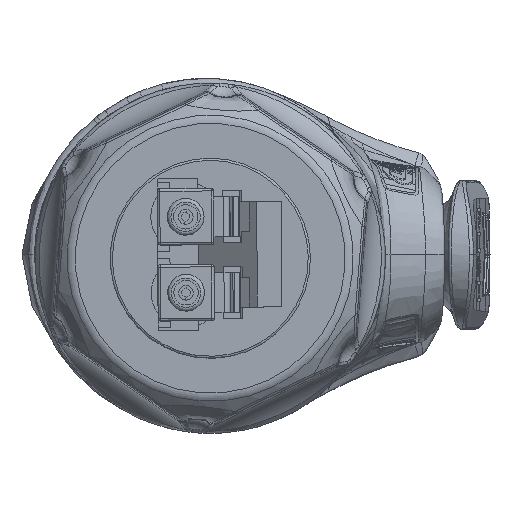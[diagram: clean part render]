
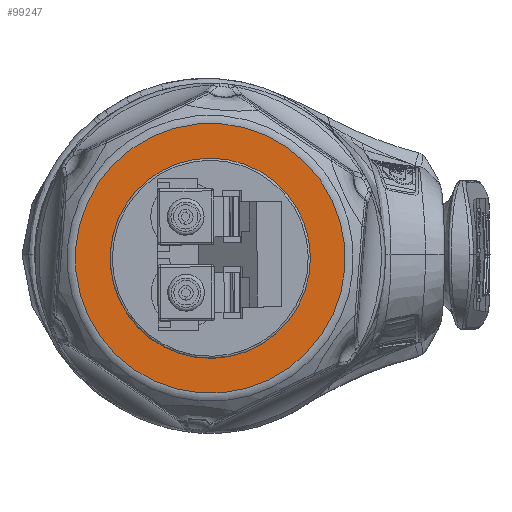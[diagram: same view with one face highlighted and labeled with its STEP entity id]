
A CAD part, left-side view. The second image highlights one B-rep face of the part: STEP entity #99247.
In plain terms, the highlighted planar face has unit normal (-1, 0, 0).
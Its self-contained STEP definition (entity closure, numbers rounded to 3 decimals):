
#964 = AXIS2_PLACEMENT_3D ( 'NONE', #31119, #85480, #58016 ) ;
#16656 = DIRECTION ( 'NONE',  ( -1., 0., 0. ) ) ;
#25167 = CIRCLE ( 'NONE', #964, 8.175 ) ;
#25982 = EDGE_CURVE ( 'NONE', #26931, #26931, #25167, .T. ) ;
#26931 = VERTEX_POINT ( 'NONE', #46173 ) ;
#27712 = DIRECTION ( 'NONE',  ( 0., 0.079, -0.997 ) ) ;
#30008 = AXIS2_PLACEMENT_3D ( 'NONE', #115609, #89270, #43113 ) ;
#30973 = EDGE_CURVE ( 'NONE', #82440, #82440, #46087, .T. ) ;
#31119 = CARTESIAN_POINT ( 'NONE',  ( -59.218, -0.343, -0.295 ) ) ;
#38584 = AXIS2_PLACEMENT_3D ( 'NONE', #61109, #16656, #27712 ) ;
#40768 = EDGE_LOOP ( 'NONE', ( #62882 ) ) ;
#43113 = DIRECTION ( 'NONE',  ( 0., 0., 1. ) ) ;
#45127 = ORIENTED_EDGE ( 'NONE', *, *, #30973, .T. ) ;
#46087 = CIRCLE ( 'NONE', #38584, 11.016 ) ;
#46173 = CARTESIAN_POINT ( 'NONE',  ( -59.218, -0.343, 7.88 ) ) ;
#50463 = EDGE_LOOP ( 'NONE', ( #45127 ) ) ;
#53605 = PLANE ( 'NONE',  #30008 ) ;
#58016 = DIRECTION ( 'NONE',  ( 0., 0., 1. ) ) ;
#61109 = CARTESIAN_POINT ( 'NONE',  ( -59.218, -0.343, -0.295 ) ) ;
#62882 = ORIENTED_EDGE ( 'NONE', *, *, #25982, .F. ) ;
#70020 = FACE_OUTER_BOUND ( 'NONE', #50463, .T. ) ;
#82440 = VERTEX_POINT ( 'NONE', #91188 ) ;
#85480 = DIRECTION ( 'NONE',  ( -1., 0., 0. ) ) ;
#88704 = FACE_BOUND ( 'NONE', #40768, .T. ) ;
#89270 = DIRECTION ( 'NONE',  ( -1., 0., 0. ) ) ;
#91188 = CARTESIAN_POINT ( 'NONE',  ( -59.218, 0.527, -11.277 ) ) ;
#99247 = ADVANCED_FACE ( 'NONE', ( #70020, #88704 ), #53605, .T. ) ;
#115609 = CARTESIAN_POINT ( 'NONE',  ( -59.218, -0.343, -0.295 ) ) ;
